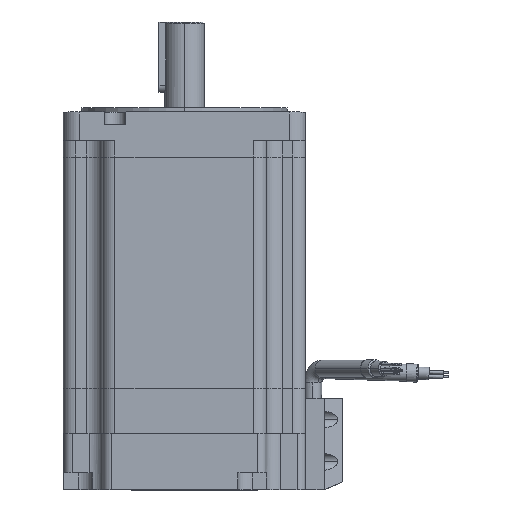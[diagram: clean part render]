
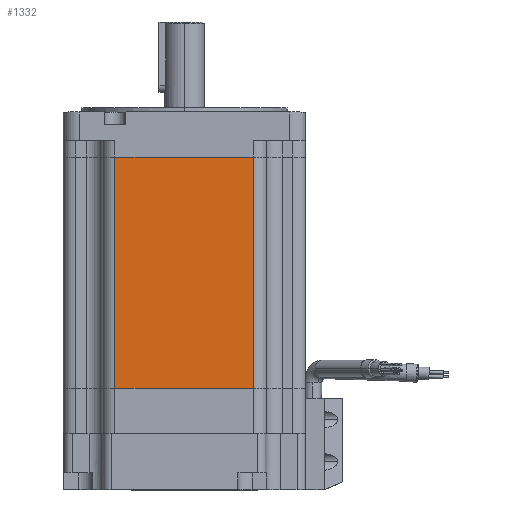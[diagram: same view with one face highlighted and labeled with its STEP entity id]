
A CAD part, top view. The second image highlights one B-rep face of the part: STEP entity #1332.
In plain terms, the highlighted planar face has unit normal (0, 0, 1).
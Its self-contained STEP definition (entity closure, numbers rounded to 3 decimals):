
#435 = VECTOR ( 'NONE', #2617, 1000. ) ;
#533 = CARTESIAN_POINT ( 'NONE',  ( 37.3, -6.008, 43. ) ) ;
#1183 = CARTESIAN_POINT ( 'NONE',  ( 24.65, -87.992, 43. ) ) ;
#1225 = LINE ( 'NONE', #2424, #4405 ) ;
#1332 = ADVANCED_FACE ( 'NONE', ( #5430 ), #6790, .F. ) ;
#1872 = EDGE_CURVE ( 'NONE', #9692, #10835, #6017, .T. ) ;
#1912 = DIRECTION ( 'NONE',  ( -1., 0., 0. ) ) ;
#2424 = CARTESIAN_POINT ( 'NONE',  ( 24.65, -104., 43. ) ) ;
#2617 = DIRECTION ( 'NONE',  ( -1., 0., 0. ) ) ;
#3816 = LINE ( 'NONE', #8248, #435 ) ;
#3917 = EDGE_CURVE ( 'NONE', #4582, #10835, #1225, .T. ) ;
#4405 = VECTOR ( 'NONE', #10449, 1000. ) ;
#4582 = VERTEX_POINT ( 'NONE', #1183 ) ;
#5240 = ORIENTED_EDGE ( 'NONE', *, *, #5400, .F. ) ;
#5400 = EDGE_CURVE ( 'NONE', #4582, #9426, #3816, .T. ) ;
#5430 = FACE_OUTER_BOUND ( 'NONE', #13711, .T. ) ;
#5658 = DIRECTION ( 'NONE',  ( 0., 0., -1. ) ) ;
#5796 = ORIENTED_EDGE ( 'NONE', *, *, #12946, .F. ) ;
#6017 = LINE ( 'NONE', #533, #12009 ) ;
#6020 = ORIENTED_EDGE ( 'NONE', *, *, #3917, .T. ) ;
#6221 = LINE ( 'NONE', #10719, #10434 ) ;
#6709 = CARTESIAN_POINT ( 'NONE',  ( -24.65, -6.008, 43. ) ) ;
#6790 = PLANE ( 'NONE',  #7554 ) ;
#7410 = DIRECTION ( 'NONE',  ( 0., 1., 0. ) ) ;
#7554 = AXIS2_PLACEMENT_3D ( 'NONE', #11383, #5658, #1912 ) ;
#8034 = ORIENTED_EDGE ( 'NONE', *, *, #1872, .F. ) ;
#8248 = CARTESIAN_POINT ( 'NONE',  ( 37.3, -87.992, 43. ) ) ;
#9426 = VERTEX_POINT ( 'NONE', #12623 ) ;
#9546 = DIRECTION ( 'NONE',  ( 1., 0., 0. ) ) ;
#9692 = VERTEX_POINT ( 'NONE', #6709 ) ;
#10434 = VECTOR ( 'NONE', #7410, 1000. ) ;
#10449 = DIRECTION ( 'NONE',  ( 0., 1., 0. ) ) ;
#10719 = CARTESIAN_POINT ( 'NONE',  ( -24.65, -104., 43. ) ) ;
#10835 = VERTEX_POINT ( 'NONE', #10908 ) ;
#10908 = CARTESIAN_POINT ( 'NONE',  ( 24.65, -6.008, 43. ) ) ;
#11383 = CARTESIAN_POINT ( 'NONE',  ( 37.3, 10., 43. ) ) ;
#12009 = VECTOR ( 'NONE', #9546, 1000. ) ;
#12623 = CARTESIAN_POINT ( 'NONE',  ( -24.65, -87.992, 43. ) ) ;
#12946 = EDGE_CURVE ( 'NONE', #9426, #9692, #6221, .T. ) ;
#13711 = EDGE_LOOP ( 'NONE', ( #5240, #6020, #8034, #5796 ) ) ;
